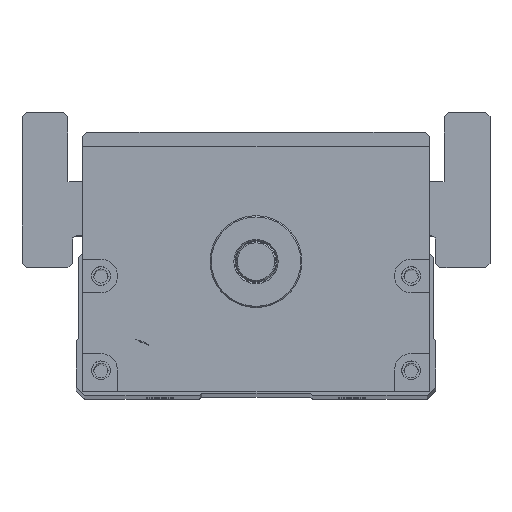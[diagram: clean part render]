
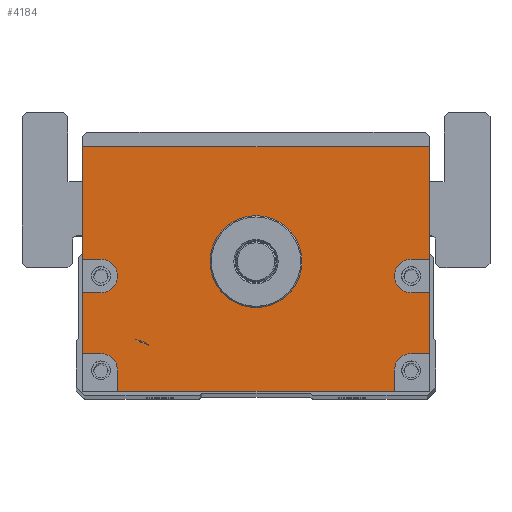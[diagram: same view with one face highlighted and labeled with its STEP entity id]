
A CAD part, top view. The second image highlights one B-rep face of the part: STEP entity #4184.
In plain terms, the highlighted planar face has unit normal (0, 0, 1).
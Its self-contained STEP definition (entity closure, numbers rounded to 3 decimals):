
#4184=ADVANCED_FACE('',(#6547,#6548),#4657,.T.);
#4657=PLANE('',#14421);
#5271=LINE('',#20828,#6026);
#5273=LINE('',#20836,#6028);
#5274=LINE('',#20839,#6029);
#5275=LINE('',#20841,#6030);
#5276=LINE('',#20845,#6031);
#5277=LINE('',#20847,#6032);
#5278=LINE('',#20848,#6033);
#5279=LINE('',#20850,#6034);
#5280=LINE('',#20854,#6035);
#5281=LINE('',#20856,#6036);
#5282=LINE('',#20858,#6037);
#5283=LINE('',#20862,#6038);
#5284=LINE('',#20864,#6039);
#5285=LINE('',#20866,#6040);
#6026=VECTOR('',#16704,1.);
#6028=VECTOR('',#16712,1.);
#6029=VECTOR('',#16713,1.);
#6030=VECTOR('',#16714,1.);
#6031=VECTOR('',#16717,1.);
#6032=VECTOR('',#16718,1.);
#6033=VECTOR('',#16719,1.);
#6034=VECTOR('',#16720,1.);
#6035=VECTOR('',#16723,1.);
#6036=VECTOR('',#16724,1.);
#6037=VECTOR('',#16725,1.);
#6038=VECTOR('',#16728,1.);
#6039=VECTOR('',#16729,1.);
#6040=VECTOR('',#16730,1.);
#6547=FACE_BOUND('',#7349,.T.);
#6548=FACE_BOUND('',#7350,.T.);
#7349=EDGE_LOOP('',(#9646,#9647,#9648,#9649,#9650,#9651,#9652,#9653,#9654,
#9655,#9656,#9657,#9658,#9659,#9660,#9661,#9662,#9663));
#7350=EDGE_LOOP('',(#9664));
#9646=ORIENTED_EDGE('',*,*,#12765,.F.);
#9647=ORIENTED_EDGE('',*,*,#12766,.T.);
#9648=ORIENTED_EDGE('',*,*,#12767,.F.);
#9649=ORIENTED_EDGE('',*,*,#12768,.F.);
#9650=ORIENTED_EDGE('',*,*,#12769,.F.);
#9651=ORIENTED_EDGE('',*,*,#12770,.T.);
#9652=ORIENTED_EDGE('',*,*,#12761,.T.);
#9653=ORIENTED_EDGE('',*,*,#12771,.T.);
#9654=ORIENTED_EDGE('',*,*,#12772,.F.);
#9655=ORIENTED_EDGE('',*,*,#12773,.F.);
#9656=ORIENTED_EDGE('',*,*,#12774,.F.);
#9657=ORIENTED_EDGE('',*,*,#12775,.T.);
#9658=ORIENTED_EDGE('',*,*,#12776,.F.);
#9659=ORIENTED_EDGE('',*,*,#12777,.F.);
#9660=ORIENTED_EDGE('',*,*,#12778,.F.);
#9661=ORIENTED_EDGE('',*,*,#12779,.T.);
#9662=ORIENTED_EDGE('',*,*,#12780,.F.);
#9663=ORIENTED_EDGE('',*,*,#12781,.F.);
#9664=ORIENTED_EDGE('',*,*,#12747,.T.);
#11390=VERTEX_POINT('',#20799);
#11403=VERTEX_POINT('',#20827);
#11404=VERTEX_POINT('',#20829);
#11407=VERTEX_POINT('',#20837);
#11408=VERTEX_POINT('',#20838);
#11409=VERTEX_POINT('',#20840);
#11410=VERTEX_POINT('',#20842);
#11411=VERTEX_POINT('',#20844);
#11412=VERTEX_POINT('',#20846);
#11413=VERTEX_POINT('',#20849);
#11414=VERTEX_POINT('',#20851);
#11415=VERTEX_POINT('',#20853);
#11416=VERTEX_POINT('',#20855);
#11417=VERTEX_POINT('',#20857);
#11418=VERTEX_POINT('',#20859);
#11419=VERTEX_POINT('',#20861);
#11420=VERTEX_POINT('',#20863);
#11421=VERTEX_POINT('',#20865);
#11422=VERTEX_POINT('',#20867);
#12747=EDGE_CURVE('',#11390,#11390,#13550,.T.);
#12761=EDGE_CURVE('',#11404,#11403,#5271,.T.);
#12765=EDGE_CURVE('',#11407,#11408,#5273,.T.);
#12766=EDGE_CURVE('',#11407,#11409,#5274,.T.);
#12767=EDGE_CURVE('',#11410,#11409,#5275,.T.);
#12768=EDGE_CURVE('',#11411,#11410,#13561,.T.);
#12769=EDGE_CURVE('',#11412,#11411,#5276,.T.);
#12770=EDGE_CURVE('',#11412,#11404,#5277,.T.);
#12771=EDGE_CURVE('',#11403,#11413,#5278,.T.);
#12772=EDGE_CURVE('',#11414,#11413,#5279,.T.);
#12773=EDGE_CURVE('',#11415,#11414,#13562,.T.);
#12774=EDGE_CURVE('',#11416,#11415,#5280,.T.);
#12775=EDGE_CURVE('',#11416,#11417,#5281,.T.);
#12776=EDGE_CURVE('',#11418,#11417,#5282,.T.);
#12777=EDGE_CURVE('',#11419,#11418,#13563,.T.);
#12778=EDGE_CURVE('',#11420,#11419,#5283,.T.);
#12779=EDGE_CURVE('',#11420,#11421,#5284,.T.);
#12780=EDGE_CURVE('',#11422,#11421,#5285,.T.);
#12781=EDGE_CURVE('',#11408,#11422,#13564,.T.);
#13550=CIRCLE('',#14403,11.);
#13561=CIRCLE('',#14417,4.);
#13562=CIRCLE('',#14418,4.);
#13563=CIRCLE('',#14419,4.);
#13564=CIRCLE('',#14420,4.);
#14403=AXIS2_PLACEMENT_3D('',#20798,#16677,#16678);
#14417=AXIS2_PLACEMENT_3D('',#20843,#16715,#16716);
#14418=AXIS2_PLACEMENT_3D('',#20852,#16721,#16722);
#14419=AXIS2_PLACEMENT_3D('',#20860,#16726,#16727);
#14420=AXIS2_PLACEMENT_3D('',#20868,#16731,#16732);
#14421=AXIS2_PLACEMENT_3D('',#20869,#16733,#16734);
#16677=DIRECTION('',(0.,0.,-1.));
#16678=DIRECTION('',(1.,0.,0.));
#16704=DIRECTION('',(-1.,0.,0.));
#16712=DIRECTION('',(-1.,0.,0.));
#16713=DIRECTION('',(0.,1.,0.));
#16714=DIRECTION('',(1.,0.,0.));
#16715=DIRECTION('',(0.,0.,1.));
#16716=DIRECTION('',(1.,0.,0.));
#16717=DIRECTION('',(-1.,0.,0.));
#16718=DIRECTION('',(0.,1.,0.));
#16719=DIRECTION('',(0.,-1.,0.));
#16720=DIRECTION('',(-1.,0.,0.));
#16721=DIRECTION('',(0.,0.,1.));
#16722=DIRECTION('',(1.,0.,0.));
#16723=DIRECTION('',(1.,0.,0.));
#16724=DIRECTION('',(0.,-1.,0.));
#16725=DIRECTION('',(-1.,0.,0.));
#16726=DIRECTION('',(0.,0.,1.));
#16727=DIRECTION('',(1.,0.,0.));
#16728=DIRECTION('',(0.,1.,0.));
#16729=DIRECTION('',(1.,0.,0.));
#16730=DIRECTION('',(0.,-1.,0.));
#16731=DIRECTION('',(0.,0.,1.));
#16732=DIRECTION('',(1.,0.,0.));
#16733=DIRECTION('',(0.,0.,1.));
#16734=DIRECTION('',(1.,0.,0.));
#20798=CARTESIAN_POINT('',(450.,0.,382.5));
#20799=CARTESIAN_POINT('',(461.,0.,382.5));
#20827=CARTESIAN_POINT('',(408.5,27.5,382.5));
#20828=CARTESIAN_POINT('',(491.5,27.5,382.5));
#20829=CARTESIAN_POINT('',(491.5,27.5,382.5));
#20836=CARTESIAN_POINT('',(491.5,-22.,382.5));
#20837=CARTESIAN_POINT('',(491.5,-22.,382.5));
#20838=CARTESIAN_POINT('',(487.115,-22.,382.5));
#20839=CARTESIAN_POINT('',(491.5,-31.,382.5));
#20840=CARTESIAN_POINT('',(491.5,-7.431,382.5));
#20841=CARTESIAN_POINT('',(491.5,-7.431,382.5));
#20842=CARTESIAN_POINT('',(487.115,-7.431,382.5));
#20843=CARTESIAN_POINT('',(487.115,-3.431,382.5));
#20844=CARTESIAN_POINT('',(487.115,0.569,382.5));
#20845=CARTESIAN_POINT('',(491.5,0.569,382.5));
#20846=CARTESIAN_POINT('',(491.5,0.569,382.5));
#20847=CARTESIAN_POINT('',(491.5,-31.,382.5));
#20848=CARTESIAN_POINT('',(408.5,27.5,382.5));
#20849=CARTESIAN_POINT('',(408.5,0.569,382.5));
#20850=CARTESIAN_POINT('',(491.5,0.569,382.5));
#20851=CARTESIAN_POINT('',(412.885,0.569,382.5));
#20852=CARTESIAN_POINT('',(412.885,-3.431,382.5));
#20853=CARTESIAN_POINT('',(412.885,-7.431,382.5));
#20854=CARTESIAN_POINT('',(491.5,-7.431,382.5));
#20855=CARTESIAN_POINT('',(408.5,-7.431,382.5));
#20856=CARTESIAN_POINT('',(408.5,27.5,382.5));
#20857=CARTESIAN_POINT('',(408.5,-22.,382.5));
#20858=CARTESIAN_POINT('',(491.5,-22.,382.5));
#20859=CARTESIAN_POINT('',(412.885,-22.,382.5));
#20860=CARTESIAN_POINT('',(412.885,-26.,382.5));
#20861=CARTESIAN_POINT('',(416.885,-26.,382.5));
#20862=CARTESIAN_POINT('',(416.885,-31.,382.5));
#20863=CARTESIAN_POINT('',(416.885,-31.,382.5));
#20864=CARTESIAN_POINT('',(408.5,-31.,382.5));
#20865=CARTESIAN_POINT('',(483.115,-31.,382.5));
#20866=CARTESIAN_POINT('',(483.115,-31.,382.5));
#20867=CARTESIAN_POINT('',(483.115,-26.,382.5));
#20868=CARTESIAN_POINT('',(487.115,-26.,382.5));
#20869=CARTESIAN_POINT('',(491.5,-31.,382.5));
